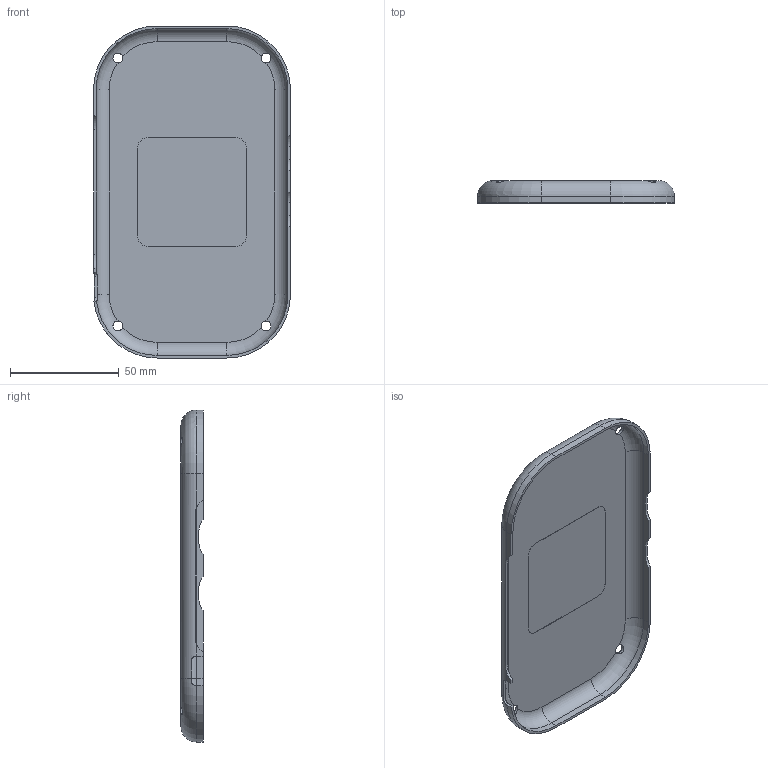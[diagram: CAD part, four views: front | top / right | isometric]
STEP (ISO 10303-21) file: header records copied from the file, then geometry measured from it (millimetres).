
FILE_DESCRIPTION(('Open CASCADE Model'),'2;1');
FILE_NAME('rear_grip_skin_finegrain_cream_INSCRIBED', '2026-09-08T13:43:15',('Author'),('Open CASCADE'), 'Open CASCADE STEP processor 7.8','build123d','Unknown');
FILE_SCHEMA(('AUTOMOTIVE_DESIGN { 1 0 10303 214 1 1 1 1 }'));
Length unit declared in the file: millimetre
Products named in the file (2): =>[0:1:1:2]; rear_grip_skin_finegrain_cream_INSCRIBED
Assembly tree (1 placements, depth 2):
  =>[0:1:1:2]
    rear_grip_skin_finegrain_cream_INSCRIBED
Bounding box: 90.4 x 10.2 x 152.4 mm (x, y, z)
Volume: 17953.1 mm3; surface area: 31263.6 mm2
Topology: 1 solids, 1 shells, 758 faces, 2140 edges, 1422 vertices
Faces by surface type: extrusion 419, plane 299, cylinder 32, torus 8
Full cylindrical faces by diameter (mm): 4.6 x4
Entity records: 60300 total; most frequent: CARTESIAN_POINT 21460, DIRECTION 5376, VECTOR 4486, ORIENTED_EDGE 4280, PCURVE 4280, DEFINITIONAL_REPRESENTATION 4280, LINE 4067, B_SPLINE_CURVE_WITH_KNOTS 2628
